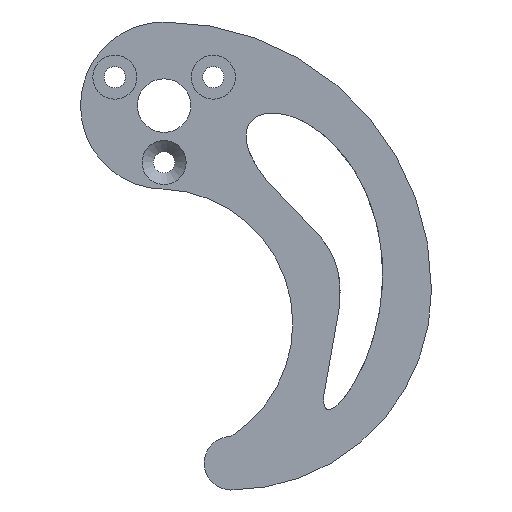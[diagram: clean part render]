
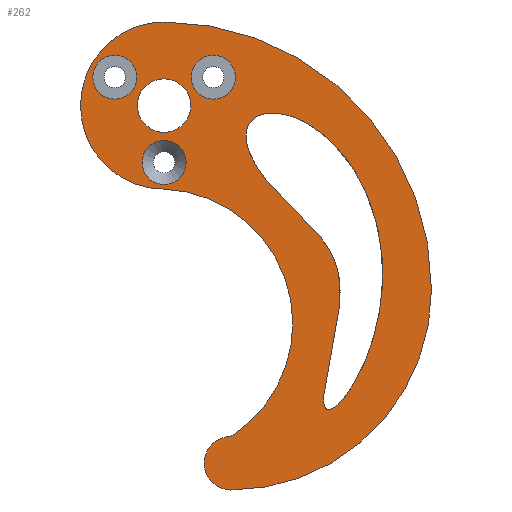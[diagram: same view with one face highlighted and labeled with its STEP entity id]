
A CAD part, front view. The second image highlights one B-rep face of the part: STEP entity #262.
In plain terms, the highlighted planar face has unit normal (0, -1, 0).
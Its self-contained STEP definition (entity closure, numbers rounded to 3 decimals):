
#24=FACE_BOUND('',#78,.T.);
#25=FACE_BOUND('',#79,.T.);
#26=FACE_BOUND('',#80,.T.);
#27=FACE_BOUND('',#81,.T.);
#28=FACE_BOUND('',#82,.T.);
#34=PLANE('',#292);
#36=CIRCLE('',#290,3.3);
#38=CIRCLE('',#293,4.);
#39=CIRCLE('',#294,30.);
#40=CIRCLE('',#295,40.);
#41=CIRCLE('',#296,12.5);
#42=CIRCLE('',#297,20.098);
#43=CIRCLE('',#298,3.3);
#44=CIRCLE('',#299,4.);
#45=CIRCLE('',#300,3.3);
#62=FACE_OUTER_BOUND('',#77,.T.);
#77=EDGE_LOOP('',(#195,#196,#197,#198,#199));
#78=EDGE_LOOP('',(#200));
#79=EDGE_LOOP('',(#201));
#80=EDGE_LOOP('',(#202));
#81=EDGE_LOOP('',(#203));
#82=EDGE_LOOP('',(#204));
#100=(
BOUNDED_CURVE()
B_SPLINE_CURVE(5,(#885,#886,#887,#888,#889,#890,#891,#892,#893,#894,#895,
#896,#897,#898,#899,#900,#901,#902,#903,#904,#905,#906,#907,#908,#909,#910,
#911,#912,#913,#914),.UNSPECIFIED.,.T.,.F.)
B_SPLINE_CURVE_WITH_KNOTS((6,1,1,1,1,1,1,1,1,1,1,1,1,1,1,1,1,1,1,1,1,1,
1,1,1,6),(0.,0.04,0.08,0.12,0.16,0.2,0.24,0.28,0.32,0.36,0.4,0.44,0.48,
0.52,0.56,0.6,0.64,0.68,0.72,0.76,0.8,0.84,0.88,0.92,0.96,1.),
 .UNSPECIFIED.)
CURVE()
GEOMETRIC_REPRESENTATION_ITEM()
RATIONAL_B_SPLINE_CURVE((1.,1.,1.,1.,1.,1.,1.,1.,1.,1.,1.,1.,1.,1.,1.,1.,
1.,1.,1.,1.,1.,1.,1.,1.,1.,1.,1.,1.,1.,1.))
REPRESENTATION_ITEM('')
);
#129=VERTEX_POINT('',#883);
#130=VERTEX_POINT('',#916);
#132=VERTEX_POINT('',#922);
#133=VERTEX_POINT('',#923);
#134=VERTEX_POINT('',#925);
#135=VERTEX_POINT('',#927);
#136=VERTEX_POINT('',#929);
#137=VERTEX_POINT('',#932);
#138=VERTEX_POINT('',#934);
#139=VERTEX_POINT('',#936);
#153=EDGE_CURVE('',#129,#129,#100,.T.);
#154=EDGE_CURVE('',#130,#130,#36,.T.);
#157=EDGE_CURVE('',#132,#133,#38,.T.);
#158=EDGE_CURVE('',#133,#134,#39,.T.);
#159=EDGE_CURVE('',#134,#135,#40,.T.);
#160=EDGE_CURVE('',#135,#136,#41,.T.);
#161=EDGE_CURVE('',#136,#132,#42,.T.);
#162=EDGE_CURVE('',#137,#137,#43,.T.);
#163=EDGE_CURVE('',#138,#138,#44,.T.);
#164=EDGE_CURVE('',#139,#139,#45,.T.);
#195=ORIENTED_EDGE('',*,*,#157,.T.);
#196=ORIENTED_EDGE('',*,*,#158,.T.);
#197=ORIENTED_EDGE('',*,*,#159,.T.);
#198=ORIENTED_EDGE('',*,*,#160,.T.);
#199=ORIENTED_EDGE('',*,*,#161,.T.);
#200=ORIENTED_EDGE('',*,*,#153,.T.);
#201=ORIENTED_EDGE('',*,*,#162,.F.);
#202=ORIENTED_EDGE('',*,*,#163,.T.);
#203=ORIENTED_EDGE('',*,*,#164,.F.);
#204=ORIENTED_EDGE('',*,*,#154,.F.);
#262=ADVANCED_FACE('',(#62,#24,#25,#26,#27,#28),#34,.T.);
#290=AXIS2_PLACEMENT_3D('',#917,#329,#330);
#292=AXIS2_PLACEMENT_3D('',#921,#334,#335);
#293=AXIS2_PLACEMENT_3D('',#924,#336,#337);
#294=AXIS2_PLACEMENT_3D('',#926,#338,#339);
#295=AXIS2_PLACEMENT_3D('',#928,#340,#341);
#296=AXIS2_PLACEMENT_3D('',#930,#342,#343);
#297=AXIS2_PLACEMENT_3D('',#931,#344,#345);
#298=AXIS2_PLACEMENT_3D('',#933,#346,#347);
#299=AXIS2_PLACEMENT_3D('',#935,#348,#349);
#300=AXIS2_PLACEMENT_3D('',#937,#350,#351);
#329=DIRECTION('center_axis',(0.,-1.,0.));
#330=DIRECTION('ref_axis',(1.,0.,0.));
#334=DIRECTION('center_axis',(0.,-1.,0.));
#335=DIRECTION('ref_axis',(1.,0.,0.));
#336=DIRECTION('center_axis',(0.,-1.,0.));
#337=DIRECTION('ref_axis',(1.,0.,0.));
#338=DIRECTION('center_axis',(0.,-1.,0.));
#339=DIRECTION('ref_axis',(0.,0.,-1.));
#340=DIRECTION('center_axis',(0.,-1.,0.));
#341=DIRECTION('ref_axis',(1.,0.,0.));
#342=DIRECTION('center_axis',(0.,-1.,0.));
#343=DIRECTION('ref_axis',(1.,0.,0.));
#344=DIRECTION('center_axis',(0.,1.,0.));
#345=DIRECTION('ref_axis',(0.54,0.,-0.842));
#346=DIRECTION('center_axis',(0.,-1.,0.));
#347=DIRECTION('ref_axis',(1.,0.,0.));
#348=DIRECTION('center_axis',(0.,1.,0.));
#349=DIRECTION('ref_axis',(1.,0.,0.));
#350=DIRECTION('center_axis',(0.,-1.,0.));
#351=DIRECTION('ref_axis',(1.,0.,0.));
#883=CARTESIAN_POINT('',(512.447,-88.988,33.848));
#885=CARTESIAN_POINT('Ctrl Pts',(512.447,-88.988,33.848));
#886=CARTESIAN_POINT('Ctrl Pts',(513.143,-88.988,33.806));
#887=CARTESIAN_POINT('Ctrl Pts',(514.622,-88.988,33.554));
#888=CARTESIAN_POINT('Ctrl Pts',(517.026,-88.988,32.663));
#889=CARTESIAN_POINT('Ctrl Pts',(520.329,-88.988,30.463));
#890=CARTESIAN_POINT('Ctrl Pts',(524.039,-88.988,26.208));
#891=CARTESIAN_POINT('Ctrl Pts',(526.865,-88.988,20.759));
#892=CARTESIAN_POINT('Ctrl Pts',(528.489,-88.988,14.522));
#893=CARTESIAN_POINT('Ctrl Pts',(528.776,-88.988,7.981));
#894=CARTESIAN_POINT('Ctrl Pts',(527.79,-88.988,1.664));
#895=CARTESIAN_POINT('Ctrl Pts',(525.846,-88.988,-3.87));
#896=CARTESIAN_POINT('Ctrl Pts',(523.487,-88.988,-8.077));
#897=CARTESIAN_POINT('Ctrl Pts',(521.317,-88.988,-10.512));
#898=CARTESIAN_POINT('Ctrl Pts',(519.858,-88.988,-10.907));
#899=CARTESIAN_POINT('Ctrl Pts',(519.421,-88.988,-9.253));
#900=CARTESIAN_POINT('Ctrl Pts',(519.922,-88.988,-5.906));
#901=CARTESIAN_POINT('Ctrl Pts',(520.954,-88.988,-1.49));
#902=CARTESIAN_POINT('Ctrl Pts',(521.957,-88.988,3.281));
#903=CARTESIAN_POINT('Ctrl Pts',(522.363,-88.988,7.774));
#904=CARTESIAN_POINT('Ctrl Pts',(521.736,-88.988,11.579));
#905=CARTESIAN_POINT('Ctrl Pts',(519.939,-88.988,14.733));
#906=CARTESIAN_POINT('Ctrl Pts',(517.161,-88.988,17.6));
#907=CARTESIAN_POINT('Ctrl Pts',(513.819,-88.988,20.635));
#908=CARTESIAN_POINT('Ctrl Pts',(510.572,-88.988,24.103));
#909=CARTESIAN_POINT('Ctrl Pts',(508.148,-88.988,27.983));
#910=CARTESIAN_POINT('Ctrl Pts',(507.592,-88.988,31.4));
#911=CARTESIAN_POINT('Ctrl Pts',(508.813,-88.988,33.175));
#912=CARTESIAN_POINT('Ctrl Pts',(510.444,-88.988,33.804));
#913=CARTESIAN_POINT('Ctrl Pts',(511.751,-88.988,33.889));
#914=CARTESIAN_POINT('Ctrl Pts',(512.447,-88.988,33.848));
#916=CARTESIAN_POINT('',(499.858,-88.988,39.225));
#917=CARTESIAN_POINT('Origin',(503.158,-88.988,39.225));
#921=CARTESIAN_POINT('Origin',(509.547,-88.988,12.475));
#922=CARTESIAN_POINT('',(505.797,-88.988,-14.525));
#923=CARTESIAN_POINT('',(505.797,-88.988,-22.525));
#924=CARTESIAN_POINT('Origin',(505.797,-88.988,-18.525));
#925=CARTESIAN_POINT('',(535.797,-88.988,7.475));
#926=CARTESIAN_POINT('Origin',(505.797,-88.988,7.475));
#927=CARTESIAN_POINT('',(495.797,-88.988,47.475));
#928=CARTESIAN_POINT('Origin',(495.797,-88.988,7.475));
#929=CARTESIAN_POINT('',(495.797,-88.988,22.475));
#930=CARTESIAN_POINT('Origin',(495.797,-88.988,34.975));
#931=CARTESIAN_POINT('Origin',(494.95,-88.988,2.394));
#932=CARTESIAN_POINT('',(492.497,-88.988,26.475));
#933=CARTESIAN_POINT('Origin',(495.797,-88.988,26.475));
#934=CARTESIAN_POINT('',(491.797,-88.988,34.975));
#935=CARTESIAN_POINT('Origin',(495.797,-88.988,34.975));
#936=CARTESIAN_POINT('',(485.136,-88.988,39.225));
#937=CARTESIAN_POINT('Origin',(488.436,-88.988,39.225));
